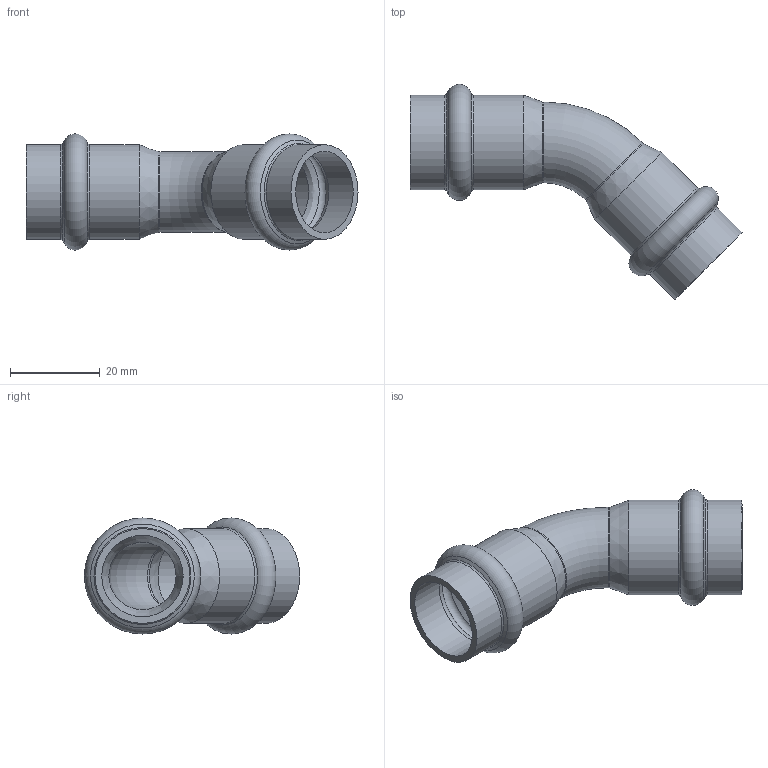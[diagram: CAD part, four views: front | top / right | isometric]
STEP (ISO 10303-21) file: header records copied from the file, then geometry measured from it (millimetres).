
FILE_DESCRIPTION((''),'2;1');
FILE_NAME('G:\Technics\CAD\Bauteile\018\6904118(1).stp','2008-02-14T08:31:47',('herberg'),(''),'Autodesk Inventor 2008','Autodesk Inventor 2008','');
FILE_SCHEMA(('AUTOMOTIVE_DESIGN { 1 0 10303 214 1 1 1 1 }'));
Length unit declared in the file: millimetre
Products named in the file (1): 6904118(1)
Bounding box: 74.05 x 48 x 25.9 mm (x, y, z)
Volume: 7442.5 mm3; surface area: 10108.3 mm2
Topology: 1 solids, 1 shells, 36 faces, 77 edges, 43 vertices
Faces by surface type: cylinder 12, cone 8, bspline 8, torus 6, plane 2
Full cylindrical faces by diameter (mm): 15 x2, 18 x2, 18.15 x4, 21.15 x4
Entity records: 1218 total; most frequent: CARTESIAN_POINT 605, DIRECTION 130, ORIENTED_EDGE 72, EDGE_LOOP 72, AXIS2_PLACEMENT_3D 65, VERTEX_POINT 36, CIRCLE 36, EDGE_CURVE 36
